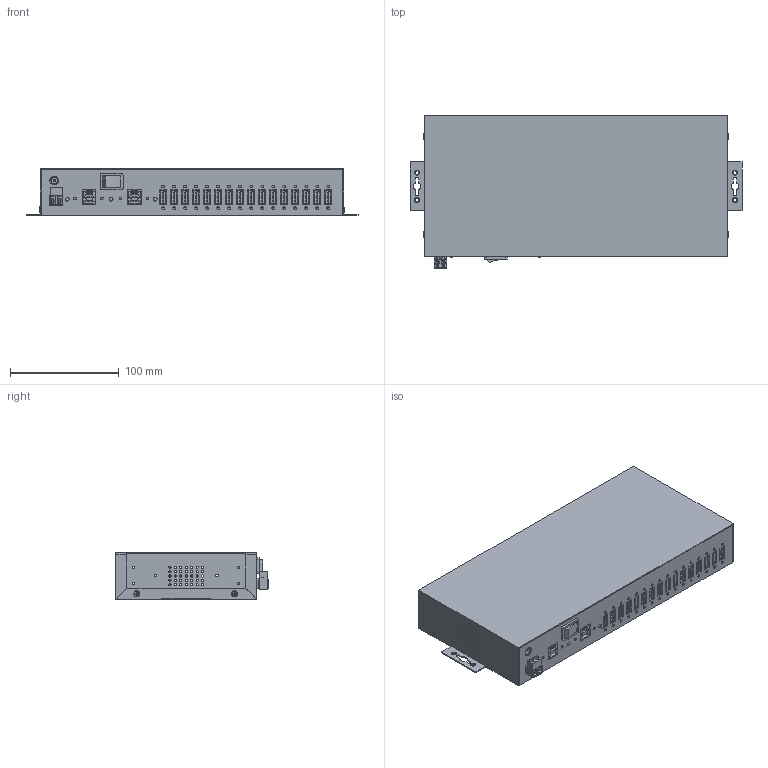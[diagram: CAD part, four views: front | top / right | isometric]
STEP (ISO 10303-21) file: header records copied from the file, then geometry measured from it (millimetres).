
FILE_DESCRIPTION(('FreeCAD Model'),'2;1');
FILE_NAME('X:/Technische Zeichnungen/EX-1526HMVS/EX-1526HMVS_3D.step', '2021-09-23T11:27:54',('Author'),(''), 'Open CASCADE STEP processor 7.3','FreeCAD','Unknown');
FILE_SCHEMA(('AUTOMOTIVE_DESIGN { 1 0 10303 214 1 1 1 1 }'));
Products named in the file (1): EX-1526HMVS_3D
Bounding box: 306 x 140.6 x 43 mm (x, y, z)
Volume: 192781.9 mm3; surface area: 313683 mm2
Topology: 3 solids, 9 shells, 9769 faces, 28760 edges, 19283 vertices
Faces by surface type: plane 8233, cylinder 1321, cone 127, torus 74, sphere 13, revolution 1
Full cylindrical faces by diameter (mm): 1.5 x3, 2 x71, 2.3 x16, 2.4 x41, 3.12 x2, 3.2 x5, 3.5 x3, 3.6 x4, 3.7 x2, 4 x2, 5.35 x5, 6 x1, 8 x1
Entity records: 891894 total; most frequent: CARTESIAN_POINT 268288, DIRECTION 96749, LINE 67389, VECTOR 67389, ORIENTED_EDGE 57488, PCURVE 57488, DEFINITIONAL_REPRESENTATION 57488, EDGE_CURVE 28744
